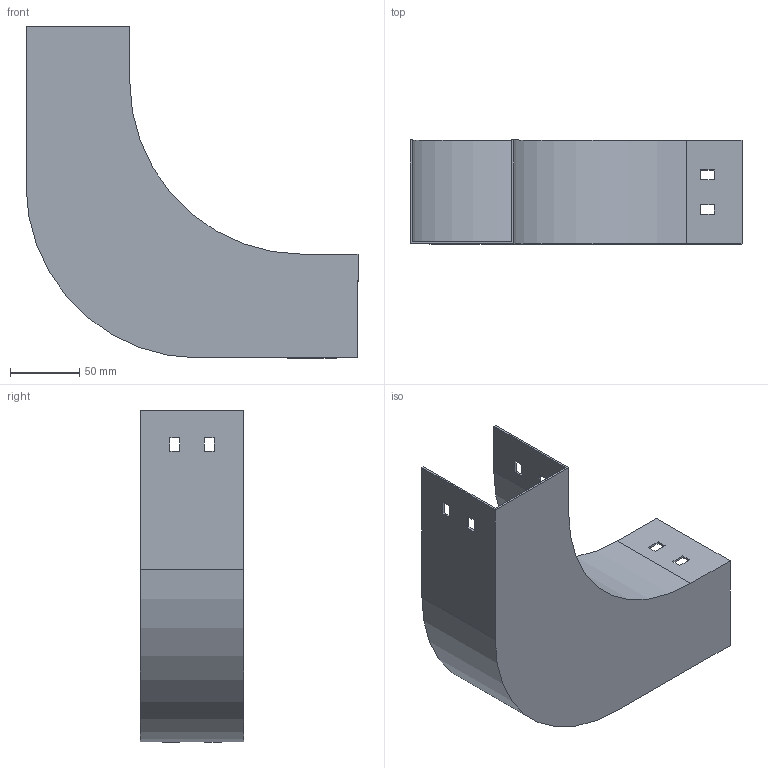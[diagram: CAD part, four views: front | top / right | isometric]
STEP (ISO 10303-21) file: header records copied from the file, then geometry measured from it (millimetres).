
FILE_DESCRIPTION (( 'STEP AP214' ), '1' );
FILE_NAME ('P9_077.step', '2025-07-16T09:20:06', ( '' ), ( '' ), 'SwSTEP 2.0', 'SolidWorks 2023', '' );
FILE_SCHEMA (( 'AUTOMOTIVE_DESIGN' ));
Length unit declared in the file: millimetre
Products named in the file (1): P9_077
Bounding box: 240 x 75 x 240 mm (x, y, z)
Volume: 122195.1 mm3; surface area: 165054.8 mm2
Topology: 1 solids, 1 shells, 50 faces, 144 edges, 96 vertices
Faces by surface type: plane 46, cylinder 4
Entity records: 1671 total; most frequent: CARTESIAN_POINT 291, ORIENTED_EDGE 288, DIRECTION 254, EDGE_CURVE 144, VECTOR 136, LINE 136, VERTEX_POINT 96, EDGE_LOOP 66
